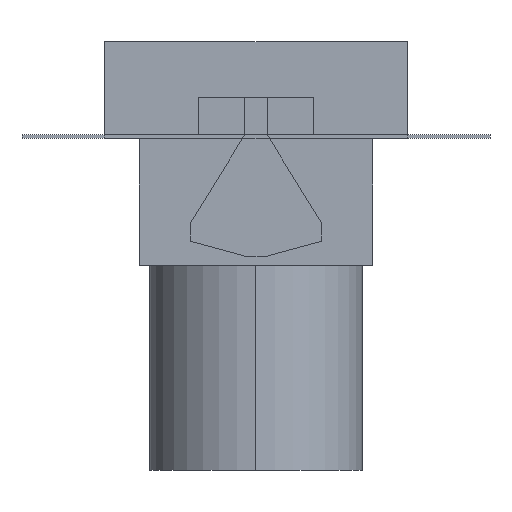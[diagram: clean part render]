
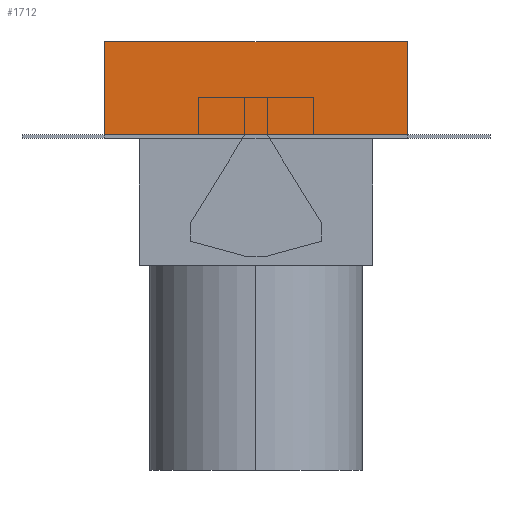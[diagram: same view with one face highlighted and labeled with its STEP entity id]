
A CAD part, left-side view. The second image highlights one B-rep face of the part: STEP entity #1712.
In plain terms, the highlighted planar face has unit normal (-1, 0, 0).
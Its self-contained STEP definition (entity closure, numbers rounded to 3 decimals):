
#140=FACE_OUTER_BOUND('',#245,.T.);
#245=EDGE_LOOP('',(#1482,#1483,#1484,#1485));
#457=LINE('',#2730,#678);
#459=LINE('',#2734,#680);
#460=LINE('',#2736,#681);
#461=LINE('',#2737,#682);
#678=VECTOR('',#2253,304.8);
#680=VECTOR('',#2257,304.8);
#681=VECTOR('',#2258,304.8);
#682=VECTOR('',#2259,304.8);
#835=VERTEX_POINT('',#2727);
#836=VERTEX_POINT('',#2729);
#837=VERTEX_POINT('',#2733);
#838=VERTEX_POINT('',#2735);
#1053=EDGE_CURVE('',#836,#835,#457,.T.);
#1055=EDGE_CURVE('',#837,#835,#459,.T.);
#1056=EDGE_CURVE('',#838,#837,#460,.T.);
#1057=EDGE_CURVE('',#836,#838,#461,.T.);
#1482=ORIENTED_EDGE('',*,*,#1055,.F.);
#1483=ORIENTED_EDGE('',*,*,#1056,.F.);
#1484=ORIENTED_EDGE('',*,*,#1057,.F.);
#1485=ORIENTED_EDGE('',*,*,#1053,.T.);
#1611=PLANE('',#1849);
#1712=ADVANCED_FACE('',(#140),#1611,.T.);
#1849=AXIS2_PLACEMENT_3D('',#2732,#2255,#2256);
#2253=DIRECTION('',(0.,0.,1.));
#2255=DIRECTION('center_axis',(-1.,0.,0.));
#2256=DIRECTION('ref_axis',(0.,0.,-1.));
#2257=DIRECTION('',(0.,-1.,0.));
#2258=DIRECTION('',(0.,0.,1.));
#2259=DIRECTION('',(0.,1.,0.));
#2727=CARTESIAN_POINT('',(-1000.,-81.,30.));
#2729=CARTESIAN_POINT('',(-1000.,-81.,-20.));
#2730=CARTESIAN_POINT('',(-1000.,-81.,-20.));
#2732=CARTESIAN_POINT('Origin',(-1000.,81.,30.));
#2733=CARTESIAN_POINT('',(-1000.,81.,30.));
#2734=CARTESIAN_POINT('',(-1000.,81.,30.));
#2735=CARTESIAN_POINT('',(-1000.,81.,-20.));
#2736=CARTESIAN_POINT('',(-1000.,81.,-20.));
#2737=CARTESIAN_POINT('',(-1000.,-81.,-20.));
